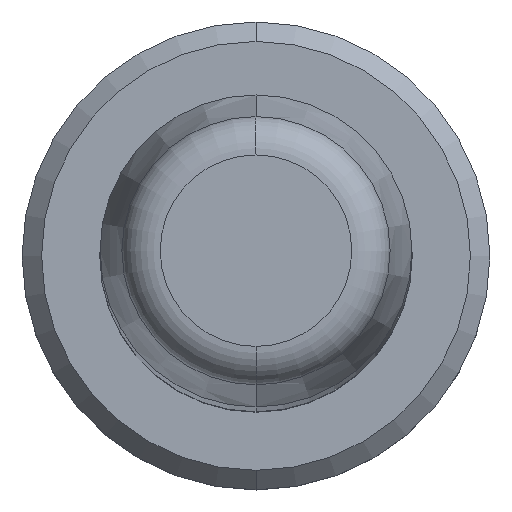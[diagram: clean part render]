
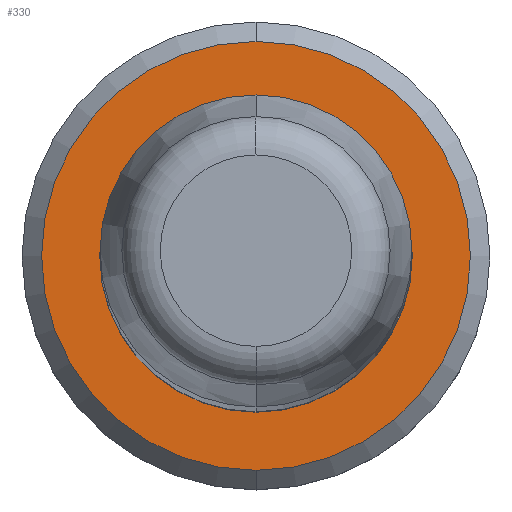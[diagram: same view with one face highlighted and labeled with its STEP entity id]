
A CAD part, top view. The second image highlights one B-rep face of the part: STEP entity #330.
In plain terms, the highlighted planar face has unit normal (0, 0, 1).
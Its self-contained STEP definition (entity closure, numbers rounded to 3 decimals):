
#70=CARTESIAN_POINT('',(0.,0.,
3.));
#71=DIRECTION('',(0.,0.,-1.));
#72=DIRECTION('',(0.,1.,0.));
#73=AXIS2_PLACEMENT_3D('',#70,#71,#72);
#75=CARTESIAN_POINT('',(0.,0.,3.));
#76=DIRECTION('',(0.,0.,-1.));
#77=DIRECTION('',(0.,-1.,0.));
#78=AXIS2_PLACEMENT_3D('',#75,#76,#77);
#80=CARTESIAN_POINT('',(0.,0.,3.));
#81=DIRECTION('',(0.,0.,1.));
#82=DIRECTION('',(1.,0.,0.));
#83=AXIS2_PLACEMENT_3D('',#80,#81,#82);
#85=CARTESIAN_POINT('',(0.,0.,3.));
#86=DIRECTION('',(0.,0.,1.));
#87=DIRECTION('',(-1.,0.,0.));
#88=AXIS2_PLACEMENT_3D('',#85,#86,#87);
#167=CARTESIAN_POINT('',(0.,5.5,3.));
#168=CARTESIAN_POINT('',(0.,-5.5,3.));
#169=VERTEX_POINT('',#167);
#170=VERTEX_POINT('',#168);
#195=CARTESIAN_POINT('',(4.01,0.,3.));
#196=CARTESIAN_POINT('',(-4.01,0.,3.));
#197=VERTEX_POINT('',#195);
#198=VERTEX_POINT('',#196);
#314=CARTESIAN_POINT('',(0.,0.,3.));
#315=DIRECTION('',(0.,0.,1.));
#316=DIRECTION('',(0.,-1.,0.));
#317=AXIS2_PLACEMENT_3D('',#314,#315,#316);
#318=PLANE('',#317);
#320=ORIENTED_EDGE('',*,*,#319,.T.);
#322=ORIENTED_EDGE('',*,*,#321,.T.);
#323=EDGE_LOOP('',(#320,#322));
#324=FACE_OUTER_BOUND('',#323,.F.);
#326=ORIENTED_EDGE('',*,*,#325,.T.);
#327=ORIENTED_EDGE('',*,*,#304,.T.);
#328=EDGE_LOOP('',(#326,#327));
#329=FACE_BOUND('',#328,.F.);
#330=ADVANCED_FACE('',(#324,#329),#318,.T.);
#74=CIRCLE('',#73,5.5);
#79=CIRCLE('',#78,5.5);
#84=CIRCLE('',#83,4.01);
#89=CIRCLE('',#88,4.01);
#304=EDGE_CURVE('',#198,#197,#89,.T.);
#319=EDGE_CURVE('',#169,#170,#74,.T.);
#321=EDGE_CURVE('',#170,#169,#79,.T.);
#325=EDGE_CURVE('',#197,#198,#84,.T.);
